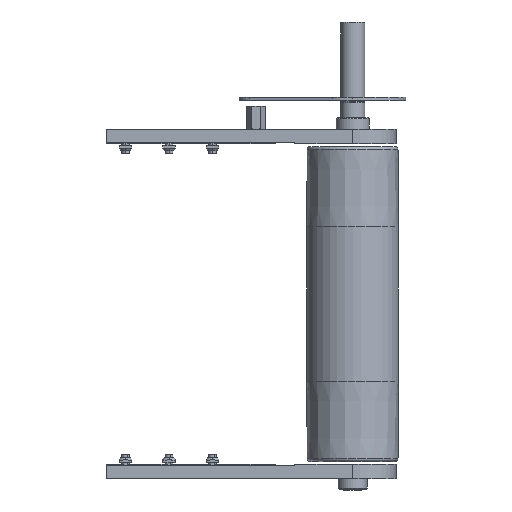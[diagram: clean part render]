
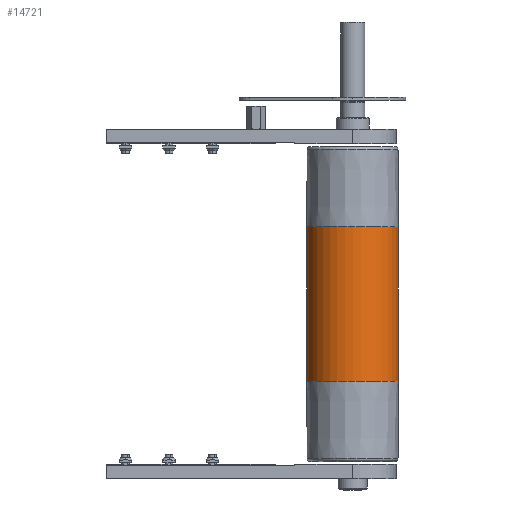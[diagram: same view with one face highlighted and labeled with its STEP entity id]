
A CAD part, front view. The second image highlights one B-rep face of the part: STEP entity #14721.
In plain terms, the highlighted cylindrical face has radius 47.5 mm (diameter 95 mm), a partial arc.
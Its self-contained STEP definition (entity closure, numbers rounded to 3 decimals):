
#3620 = EDGE_LOOP ( 'NONE', ( #6455, #6465, #6433, #6459 ) ) ;
#5122 = DIRECTION ( 'NONE',  ( 0., 0., 1. ) ) ;
#5132 = DIRECTION ( 'NONE',  ( 1., 0., 0. ) ) ;
#5142 = CARTESIAN_POINT ( 'NONE',  ( 0., 0., 80. ) ) ;
#5157 = DIRECTION ( 'NONE',  ( 1., 0., 0. ) ) ;
#6433 = ORIENTED_EDGE ( 'NONE', *, *, #8588, .T. ) ;
#6455 = ORIENTED_EDGE ( 'NONE', *, *, #8586, .F. ) ;
#6459 = ORIENTED_EDGE ( 'NONE', *, *, #8593, .T. ) ;
#6465 = ORIENTED_EDGE ( 'NONE', *, *, #8595, .F. ) ;
#7102 = AXIS2_PLACEMENT_3D ( 'NONE', #11356, #11358, #11371 ) ;
#7495 = AXIS2_PLACEMENT_3D ( 'NONE', #5142, #5122, #5132 ) ;
#7497 = AXIS2_PLACEMENT_3D ( 'NONE', #18801, #18800, #5157 ) ;
#8586 = EDGE_CURVE ( 'NONE', #16065, #16191, #18301, .T. ) ;
#8588 = EDGE_CURVE ( 'NONE', #16056, #16071, #18299, .T. ) ;
#8593 = EDGE_CURVE ( 'NONE', #16071, #16191, #18293, .T. ) ;
#8595 = EDGE_CURVE ( 'NONE', #16056, #16065, #18286, .T. ) ;
#11356 = CARTESIAN_POINT ( 'NONE',  ( 0., 0., 160. ) ) ;
#11358 = DIRECTION ( 'NONE',  ( 0., 0., -1. ) ) ;
#11371 = DIRECTION ( 'NONE',  ( -1., 0., 0. ) ) ;
#13632 = CARTESIAN_POINT ( 'NONE',  ( 47.5, 0., -80. ) ) ;
#13752 = CARTESIAN_POINT ( 'NONE',  ( -47.5, 0., -80. ) ) ;
#13758 = CARTESIAN_POINT ( 'NONE',  ( 47.5, 0., 80. ) ) ;
#13767 = CARTESIAN_POINT ( 'NONE',  ( -47.5, 0., 80. ) ) ;
#14721 = ADVANCED_FACE ( 'NONE', ( #15018 ), #17780, .T. ) ;
#15018 = FACE_OUTER_BOUND ( 'NONE', #3620, .T. ) ;
#16056 = VERTEX_POINT ( 'NONE', #13767 ) ;
#16065 = VERTEX_POINT ( 'NONE', #13758 ) ;
#16071 = VERTEX_POINT ( 'NONE', #13752 ) ;
#16191 = VERTEX_POINT ( 'NONE', #13632 ) ;
#17780 = CYLINDRICAL_SURFACE ( 'NONE', #7102, 47.5 ) ;
#18286 = CIRCLE ( 'NONE', #7495, 47.5 ) ;
#18293 = CIRCLE ( 'NONE', #7497, 47.5 ) ;
#18294 = VECTOR ( 'NONE', #18813, 1000. ) ;
#18298 = VECTOR ( 'NONE', #18816, 1000. ) ;
#18299 = LINE ( 'NONE', #18821, #18294 ) ;
#18301 = LINE ( 'NONE', #18817, #18298 ) ;
#18800 = DIRECTION ( 'NONE',  ( 0., 0., 1. ) ) ;
#18801 = CARTESIAN_POINT ( 'NONE',  ( 0., 0., -80. ) ) ;
#18813 = DIRECTION ( 'NONE',  ( 0., 0., -1. ) ) ;
#18816 = DIRECTION ( 'NONE',  ( 0., 0., -1. ) ) ;
#18817 = CARTESIAN_POINT ( 'NONE',  ( 47.5, 0., 160. ) ) ;
#18821 = CARTESIAN_POINT ( 'NONE',  ( -47.5, 0., 160. ) ) ;
